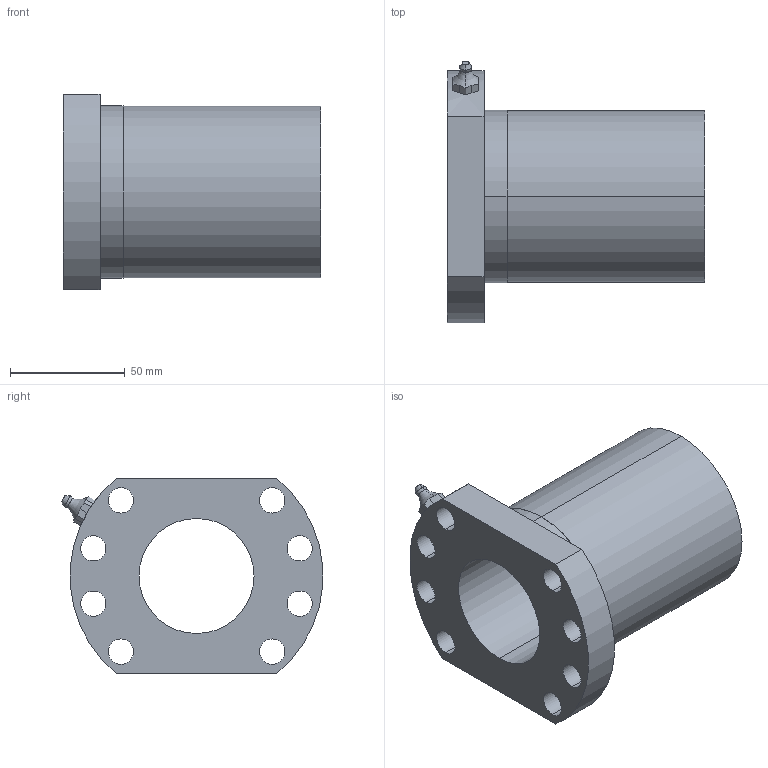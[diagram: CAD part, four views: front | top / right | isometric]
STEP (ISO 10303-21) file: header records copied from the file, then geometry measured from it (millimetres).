
FILE_DESCRIPTION (( 'STEP AP203' ), '1' );
FILE_NAME ('DDB5005-R-5EF.STEP', '2002-08-15T10:57:24', ( '.' ), ( '.' ), 'SwSTEP 2.0', 'SolidWorks 2001340', '' );
FILE_SCHEMA (( 'CONFIG_CONTROL_DESIGN' ));
Length unit declared in the file: millimetre
Products named in the file (1): DDB5005-R-5EF
Bounding box: 112 x 113.6 x 85 mm (x, y, z)
Volume: 323106 mm3; surface area: 61321.6 mm2
Topology: 1 solids, 1 shells, 55 faces, 150 edges, 98 vertices
Faces by surface type: cylinder 30, plane 19, torus 2, sphere 2, cone 2
Entity records: 1899 total; most frequent: CARTESIAN_POINT 420, DIRECTION 294, ORIENTED_EDGE 292, EDGE_CURVE 146, AXIS2_PLACEMENT_3D 122, VERTEX_POINT 96, EDGE_LOOP 76, CIRCLE 66
